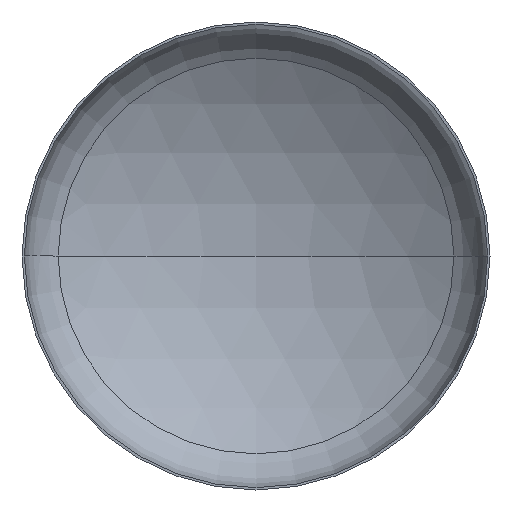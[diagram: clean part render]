
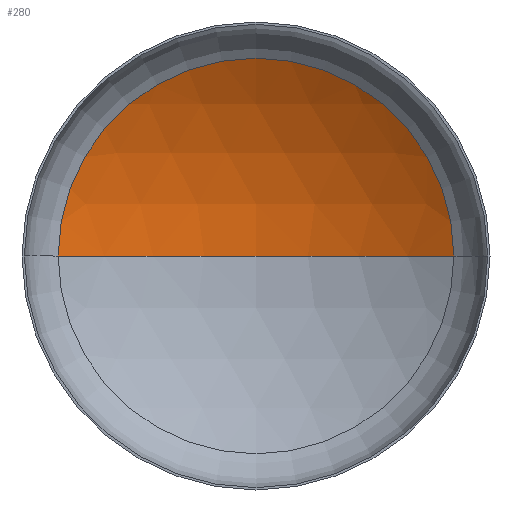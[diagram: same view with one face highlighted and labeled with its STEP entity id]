
A CAD part, front view. The second image highlights one B-rep face of the part: STEP entity #280.
In plain terms, the highlighted spherical face has radius 2400 mm.
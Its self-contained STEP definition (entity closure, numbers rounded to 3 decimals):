
#7 = VERTEX_POINT ( 'NONE', #252 ) ;
#15 = EDGE_LOOP ( 'NONE', ( #91, #68, #102 ) ) ;
#16 = VERTEX_POINT ( 'NONE', #357 ) ;
#29 = DIRECTION ( 'NONE',  ( -1., 0., 0. ) ) ;
#50 = VERTEX_POINT ( 'NONE', #217 ) ;
#68 = ORIENTED_EDGE ( 'NONE', *, *, #203, .T. ) ;
#77 = AXIS2_PLACEMENT_3D ( 'NONE', #146, #118, #383 ) ;
#91 = ORIENTED_EDGE ( 'NONE', *, *, #213, .F. ) ;
#102 = ORIENTED_EDGE ( 'NONE', *, *, #199, .T. ) ;
#118 = DIRECTION ( 'NONE',  ( 0., 0., -1. ) ) ;
#124 = AXIS2_PLACEMENT_3D ( 'NONE', #198, #410, #189 ) ;
#137 = AXIS2_PLACEMENT_3D ( 'NONE', #346, #408, #29 ) ;
#141 = AXIS2_PLACEMENT_3D ( 'NONE', #192, #195, #175 ) ;
#146 = CARTESIAN_POINT ( 'NONE',  ( 0., -1602.111, 0. ) ) ;
#175 = DIRECTION ( 'NONE',  ( 1., 0., 0. ) ) ;
#189 = DIRECTION ( 'NONE',  ( 1., 0., 0. ) ) ;
#192 = CARTESIAN_POINT ( 'NONE',  ( 0., 435.552, 0. ) ) ;
#195 = DIRECTION ( 'NONE',  ( 0., -1., 0. ) ) ;
#198 = CARTESIAN_POINT ( 'NONE',  ( 0., -1602.111, 0. ) ) ;
#199 = EDGE_CURVE ( 'NONE', #50, #16, #313, .T. ) ;
#203 = EDGE_CURVE ( 'NONE', #7, #50, #360, .T. ) ;
#213 = EDGE_CURVE ( 'NONE', #7, #16, #249, .T. ) ;
#217 = CARTESIAN_POINT ( 'NONE',  ( 1268.041, 435.552, 0. ) ) ;
#221 = SPHERICAL_SURFACE ( 'NONE', #77, 2400. ) ;
#249 = CIRCLE ( 'NONE', #124, 2400. ) ;
#252 = CARTESIAN_POINT ( 'NONE',  ( 0., 797.889, 0. ) ) ;
#280 = ADVANCED_FACE ( 'NONE', ( #289 ), #221, .F. ) ;
#289 = FACE_OUTER_BOUND ( 'NONE', #15, .T. ) ;
#313 = CIRCLE ( 'NONE', #141, 1268.041 ) ;
#346 = CARTESIAN_POINT ( 'NONE',  ( 0., -1602.111, 0. ) ) ;
#357 = CARTESIAN_POINT ( 'NONE',  ( -1268.041, 435.552, 0. ) ) ;
#360 = CIRCLE ( 'NONE', #137, 2400. ) ;
#383 = DIRECTION ( 'NONE',  ( -1., 0., 0. ) ) ;
#408 = DIRECTION ( 'NONE',  ( 0., 0., -1. ) ) ;
#410 = DIRECTION ( 'NONE',  ( 0., 0., 1. ) ) ;
